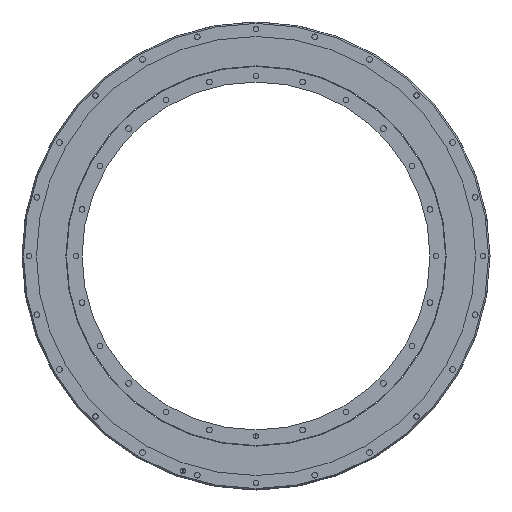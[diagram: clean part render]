
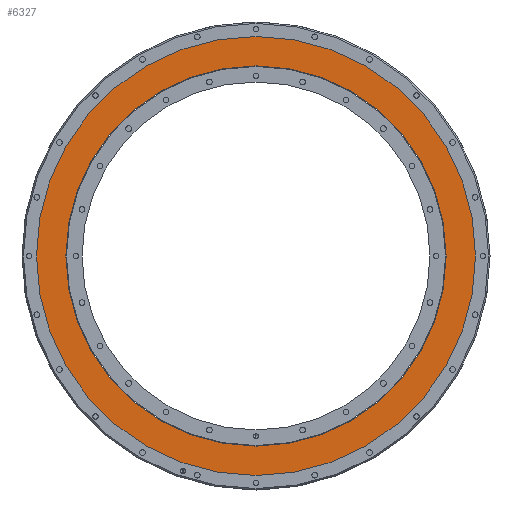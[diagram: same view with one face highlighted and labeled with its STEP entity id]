
A CAD part, front view. The second image highlights one B-rep face of the part: STEP entity #6327.
In plain terms, the highlighted planar face has unit normal (0, -1, 0).
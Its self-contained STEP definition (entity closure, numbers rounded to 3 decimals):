
#214 = DIRECTION ( 'NONE',  ( 0., 0., -1. ) ) ;
#487 = AXIS2_PLACEMENT_3D ( 'NONE', #7088, #9688, #4278 ) ;
#607 = EDGE_CURVE ( 'NONE', #10200, #10241, #8628, .T. ) ;
#630 = DIRECTION ( 'NONE',  ( 0., -1., 0. ) ) ;
#1140 = CARTESIAN_POINT ( 'NONE',  ( 0., 1., 0. ) ) ;
#1495 = CARTESIAN_POINT ( 'NONE',  ( 229.5, 1., 0. ) ) ;
#2153 = ORIENTED_EDGE ( 'NONE', *, *, #607, .F. ) ;
#2425 = DIRECTION ( 'NONE',  ( 0., 0., -1. ) ) ;
#2493 = CARTESIAN_POINT ( 'NONE',  ( 0., 1., -229.5 ) ) ;
#2901 = EDGE_CURVE ( 'NONE', #5813, #6942, #4846, .T. ) ;
#3839 = AXIS2_PLACEMENT_3D ( 'NONE', #6363, #4581, #9054 ) ;
#3963 = CIRCLE ( 'NONE', #9763, 265. ) ;
#4078 = FACE_BOUND ( 'NONE', #9138, .T. ) ;
#4083 = CARTESIAN_POINT ( 'NONE',  ( 0., 1., -265. ) ) ;
#4278 = DIRECTION ( 'NONE',  ( 0., 0., -1. ) ) ;
#4362 = FACE_OUTER_BOUND ( 'NONE', #10715, .T. ) ;
#4581 = DIRECTION ( 'NONE',  ( 0., -1., 0. ) ) ;
#4623 = ORIENTED_EDGE ( 'NONE', *, *, #5135, .T. ) ;
#4660 = ORIENTED_EDGE ( 'NONE', *, *, #7077, .F. ) ;
#4679 = DIRECTION ( 'NONE',  ( 0., -1., 0. ) ) ;
#4846 = CIRCLE ( 'NONE', #3839, 265. ) ;
#5135 = EDGE_CURVE ( 'NONE', #6942, #5813, #3963, .T. ) ;
#5236 = CARTESIAN_POINT ( 'NONE',  ( 0., 1., 229.5 ) ) ;
#5445 = CARTESIAN_POINT ( 'NONE',  ( 0., 1., 0. ) ) ;
#5556 = AXIS2_PLACEMENT_3D ( 'NONE', #1495, #11405, #10499 ) ;
#5813 = VERTEX_POINT ( 'NONE', #6044 ) ;
#6044 = CARTESIAN_POINT ( 'NONE',  ( 0., 1., 265. ) ) ;
#6327 = ADVANCED_FACE ( 'NONE', ( #4362, #4078 ), #6856, .T. ) ;
#6363 = CARTESIAN_POINT ( 'NONE',  ( 0., 1., 0. ) ) ;
#6832 = AXIS2_PLACEMENT_3D ( 'NONE', #5445, #630, #2425 ) ;
#6856 = PLANE ( 'NONE',  #5556 ) ;
#6942 = VERTEX_POINT ( 'NONE', #4083 ) ;
#7077 = EDGE_CURVE ( 'NONE', #10241, #10200, #11490, .T. ) ;
#7088 = CARTESIAN_POINT ( 'NONE',  ( 0., 1., 0. ) ) ;
#8628 = CIRCLE ( 'NONE', #6832, 229.5 ) ;
#9054 = DIRECTION ( 'NONE',  ( 0., 0., -1. ) ) ;
#9138 = EDGE_LOOP ( 'NONE', ( #4660, #2153 ) ) ;
#9423 = ORIENTED_EDGE ( 'NONE', *, *, #2901, .T. ) ;
#9688 = DIRECTION ( 'NONE',  ( 0., -1., 0. ) ) ;
#9763 = AXIS2_PLACEMENT_3D ( 'NONE', #1140, #4679, #214 ) ;
#10200 = VERTEX_POINT ( 'NONE', #5236 ) ;
#10241 = VERTEX_POINT ( 'NONE', #2493 ) ;
#10499 = DIRECTION ( 'NONE',  ( 0., 0., -1. ) ) ;
#10715 = EDGE_LOOP ( 'NONE', ( #4623, #9423 ) ) ;
#11405 = DIRECTION ( 'NONE',  ( 0., -1., 0. ) ) ;
#11490 = CIRCLE ( 'NONE', #487, 229.5 ) ;
